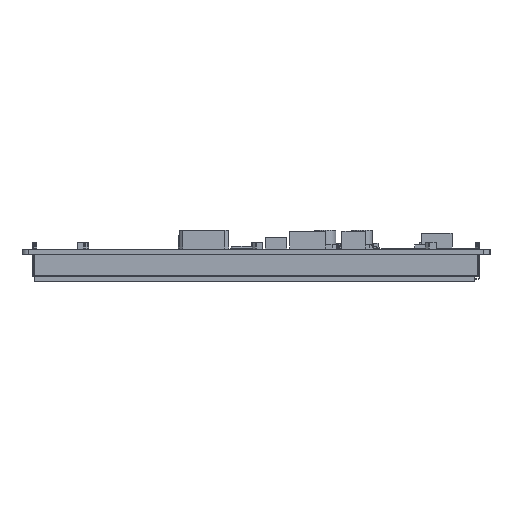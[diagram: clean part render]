
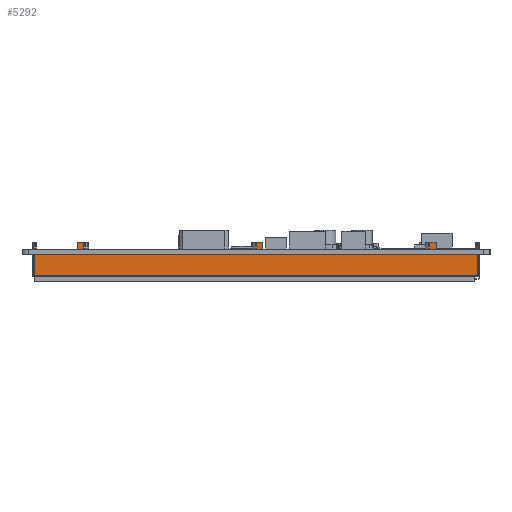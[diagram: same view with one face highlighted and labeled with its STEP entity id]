
A CAD part, left-side view. The second image highlights one B-rep face of the part: STEP entity #5292.
In plain terms, the highlighted planar face has unit normal (-1, 0, 0).
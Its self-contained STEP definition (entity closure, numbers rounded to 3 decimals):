
#5292=ADVANCED_FACE('',(#10006),#7492,.F.);
#7492=PLANE('',#58800);
#10006=FACE_OUTER_BOUND('',#12701,.T.);
#12701=EDGE_LOOP('',(#26313,#26314,#26315,#26316,#26317,#26318,#26319,#26320,
#26321,#26322,#26323,#26324,#26325,#26326,#26327,#26328,#26329,#26330,#26331,
#26332,#26333,#26334));
#26313=ORIENTED_EDGE('',*,*,#39514,.F.);
#26314=ORIENTED_EDGE('',*,*,#39515,.T.);
#26315=ORIENTED_EDGE('',*,*,#39516,.T.);
#26316=ORIENTED_EDGE('',*,*,#39511,.T.);
#26317=ORIENTED_EDGE('',*,*,#39517,.F.);
#26318=ORIENTED_EDGE('',*,*,#39518,.F.);
#26319=ORIENTED_EDGE('',*,*,#39519,.T.);
#26320=ORIENTED_EDGE('',*,*,#39520,.T.);
#26321=ORIENTED_EDGE('',*,*,#39521,.T.);
#26322=ORIENTED_EDGE('',*,*,#39507,.T.);
#26323=ORIENTED_EDGE('',*,*,#39522,.F.);
#26324=ORIENTED_EDGE('',*,*,#39523,.F.);
#26325=ORIENTED_EDGE('',*,*,#39524,.T.);
#26326=ORIENTED_EDGE('',*,*,#39525,.T.);
#26327=ORIENTED_EDGE('',*,*,#39526,.T.);
#26328=ORIENTED_EDGE('',*,*,#39503,.T.);
#26329=ORIENTED_EDGE('',*,*,#39527,.F.);
#26330=ORIENTED_EDGE('',*,*,#39528,.T.);
#26331=ORIENTED_EDGE('',*,*,#39529,.F.);
#26332=ORIENTED_EDGE('',*,*,#39530,.F.);
#26333=ORIENTED_EDGE('',*,*,#39531,.T.);
#26334=ORIENTED_EDGE('',*,*,#39501,.T.);
#32307=VERTEX_POINT('',#87095);
#32309=VERTEX_POINT('',#87099);
#32310=VERTEX_POINT('',#87103);
#32312=VERTEX_POINT('',#87106);
#32314=VERTEX_POINT('',#87112);
#32316=VERTEX_POINT('',#87115);
#32318=VERTEX_POINT('',#87121);
#32320=VERTEX_POINT('',#87124);
#32322=VERTEX_POINT('',#87130);
#32323=VERTEX_POINT('',#87132);
#32324=VERTEX_POINT('',#87135);
#32325=VERTEX_POINT('',#87137);
#32326=VERTEX_POINT('',#87139);
#32327=VERTEX_POINT('',#87141);
#32328=VERTEX_POINT('',#87144);
#32329=VERTEX_POINT('',#87146);
#32330=VERTEX_POINT('',#87148);
#32331=VERTEX_POINT('',#87150);
#32332=VERTEX_POINT('',#87153);
#32333=VERTEX_POINT('',#87155);
#32334=VERTEX_POINT('',#87157);
#32335=VERTEX_POINT('',#87159);
#39501=EDGE_CURVE('',#32307,#32309,#47691,.T.);
#39503=EDGE_CURVE('',#32312,#32310,#47693,.T.);
#39507=EDGE_CURVE('',#32316,#32314,#47697,.T.);
#39511=EDGE_CURVE('',#32320,#32318,#47701,.T.);
#39514=EDGE_CURVE('',#32322,#32309,#47704,.T.);
#39515=EDGE_CURVE('',#32322,#32323,#47705,.T.);
#39516=EDGE_CURVE('',#32323,#32320,#47706,.T.);
#39517=EDGE_CURVE('',#32324,#32318,#47707,.T.);
#39518=EDGE_CURVE('',#32325,#32324,#47708,.T.);
#39519=EDGE_CURVE('',#32325,#32326,#47709,.T.);
#39520=EDGE_CURVE('',#32326,#32327,#47710,.T.);
#39521=EDGE_CURVE('',#32327,#32316,#47711,.T.);
#39522=EDGE_CURVE('',#32328,#32314,#47712,.T.);
#39523=EDGE_CURVE('',#32329,#32328,#47713,.T.);
#39524=EDGE_CURVE('',#32329,#32330,#47714,.T.);
#39525=EDGE_CURVE('',#32330,#32331,#47715,.T.);
#39526=EDGE_CURVE('',#32331,#32312,#47716,.T.);
#39527=EDGE_CURVE('',#32332,#32310,#47717,.T.);
#39528=EDGE_CURVE('',#32332,#32333,#47718,.T.);
#39529=EDGE_CURVE('',#32334,#32333,#47719,.T.);
#39530=EDGE_CURVE('',#32335,#32334,#47720,.T.);
#39531=EDGE_CURVE('',#32335,#32307,#47721,.T.);
#47691=LINE('',#87100,#54298);
#47693=LINE('',#87105,#54300);
#47697=LINE('',#87114,#54304);
#47701=LINE('',#87123,#54308);
#47704=LINE('',#87129,#54311);
#47705=LINE('',#87131,#54312);
#47706=LINE('',#87133,#54313);
#47707=LINE('',#87134,#54314);
#47708=LINE('',#87136,#54315);
#47709=LINE('',#87138,#54316);
#47710=LINE('',#87140,#54317);
#47711=LINE('',#87142,#54318);
#47712=LINE('',#87143,#54319);
#47713=LINE('',#87145,#54320);
#47714=LINE('',#87147,#54321);
#47715=LINE('',#87149,#54322);
#47716=LINE('',#87151,#54323);
#47717=LINE('',#87152,#54324);
#47718=LINE('',#87154,#54325);
#47719=LINE('',#87156,#54326);
#47720=LINE('',#87158,#54327);
#47721=LINE('',#87160,#54328);
#54298=VECTOR('',#71379,1.);
#54300=VECTOR('',#71383,1.);
#54304=VECTOR('',#71389,1.);
#54308=VECTOR('',#71395,1.);
#54311=VECTOR('',#71400,1.);
#54312=VECTOR('',#71401,1.);
#54313=VECTOR('',#71402,1.);
#54314=VECTOR('',#71403,1.);
#54315=VECTOR('',#71404,1.);
#54316=VECTOR('',#71405,1.);
#54317=VECTOR('',#71406,1.);
#54318=VECTOR('',#71407,1.);
#54319=VECTOR('',#71408,1.);
#54320=VECTOR('',#71409,1.);
#54321=VECTOR('',#71410,1.);
#54322=VECTOR('',#71411,1.);
#54323=VECTOR('',#71412,1.);
#54324=VECTOR('',#71413,1.);
#54325=VECTOR('',#71414,1.);
#54326=VECTOR('',#71415,1.);
#54327=VECTOR('',#71416,1.);
#54328=VECTOR('',#71417,1.);
#58800=AXIS2_PLACEMENT_3D('',#87161,#71418,#71419);
#71379=DIRECTION('',(0.,1.,0.));
#71383=DIRECTION('',(0.,1.,0.));
#71389=DIRECTION('',(0.,1.,0.));
#71395=DIRECTION('',(0.,1.,0.));
#71400=DIRECTION('',(0.,0.,1.));
#71401=DIRECTION('',(0.,-1.,0.));
#71402=DIRECTION('',(0.,0.,1.));
#71403=DIRECTION('',(0.,0.,-1.));
#71404=DIRECTION('',(0.,-1.,0.));
#71405=DIRECTION('',(0.,0.,-1.));
#71406=DIRECTION('',(0.,-1.,0.));
#71407=DIRECTION('',(0.,0.,-1.));
#71408=DIRECTION('',(0.,0.,-1.));
#71409=DIRECTION('',(0.,-1.,0.));
#71410=DIRECTION('',(0.,0.,-1.));
#71411=DIRECTION('',(0.,-1.,0.));
#71412=DIRECTION('',(0.,0.,-1.));
#71413=DIRECTION('',(0.,0.,-1.));
#71414=DIRECTION('',(0.,-1.,0.));
#71415=DIRECTION('',(0.,0.,-1.));
#71416=DIRECTION('',(0.,-1.,0.));
#71417=DIRECTION('',(0.,0.,-1.));
#71418=DIRECTION('',(1.,0.,0.));
#71419=DIRECTION('',(0.,1.,0.));
#87095=CARTESIAN_POINT('',(-84.85,60.795,-1.6));
#87099=CARTESIAN_POINT('',(-84.85,74.48,-1.6));
#87100=CARTESIAN_POINT('',(-84.85,-66.52,-1.6));
#87103=CARTESIAN_POINT('',(-84.85,58.795,-1.6));
#87105=CARTESIAN_POINT('',(-84.85,-66.52,-1.6));
#87106=CARTESIAN_POINT('',(-84.85,3.795,-1.6));
#87112=CARTESIAN_POINT('',(-84.85,1.795,-1.6));
#87114=CARTESIAN_POINT('',(-84.85,-66.52,-1.6));
#87115=CARTESIAN_POINT('',(-84.85,-51.325,-1.6));
#87121=CARTESIAN_POINT('',(-84.85,-53.325,-1.6));
#87123=CARTESIAN_POINT('',(-84.85,-66.52,-1.6));
#87124=CARTESIAN_POINT('',(-84.85,-66.52,-1.6));
#87129=CARTESIAN_POINT('',(-84.85,74.48,-8.8));
#87130=CARTESIAN_POINT('',(-84.85,74.48,-8.4));
#87131=CARTESIAN_POINT('',(-84.85,-66.52,-8.4));
#87132=CARTESIAN_POINT('',(-84.85,-66.52,-8.4));
#87133=CARTESIAN_POINT('',(-84.85,-66.52,-8.8));
#87134=CARTESIAN_POINT('',(-84.85,-53.325,2.));
#87135=CARTESIAN_POINT('',(-84.85,-53.325,2.));
#87136=CARTESIAN_POINT('',(-84.85,-51.243,2.));
#87137=CARTESIAN_POINT('',(-84.85,-51.243,2.));
#87138=CARTESIAN_POINT('',(-84.85,-51.243,2.));
#87139=CARTESIAN_POINT('',(-84.85,-51.243,0.));
#87140=CARTESIAN_POINT('',(-84.85,-51.243,0.));
#87141=CARTESIAN_POINT('',(-84.85,-51.325,0.));
#87142=CARTESIAN_POINT('',(-84.85,-51.325,0.));
#87143=CARTESIAN_POINT('',(-84.85,1.795,2.));
#87144=CARTESIAN_POINT('',(-84.85,1.795,2.));
#87145=CARTESIAN_POINT('',(-84.85,3.877,2.));
#87146=CARTESIAN_POINT('',(-84.85,3.877,2.));
#87147=CARTESIAN_POINT('',(-84.85,3.877,2.));
#87148=CARTESIAN_POINT('',(-84.85,3.877,0.));
#87149=CARTESIAN_POINT('',(-84.85,3.877,0.));
#87150=CARTESIAN_POINT('',(-84.85,3.795,0.));
#87151=CARTESIAN_POINT('',(-84.85,3.795,0.));
#87152=CARTESIAN_POINT('',(-84.85,58.795,0.));
#87153=CARTESIAN_POINT('',(-84.85,58.795,0.));
#87154=CARTESIAN_POINT('',(-84.85,60.795,0.));
#87155=CARTESIAN_POINT('',(-84.85,58.713,0.));
#87156=CARTESIAN_POINT('',(-84.85,58.713,2.));
#87157=CARTESIAN_POINT('',(-84.85,58.713,2.));
#87158=CARTESIAN_POINT('',(-84.85,60.795,2.));
#87159=CARTESIAN_POINT('',(-84.85,60.795,2.));
#87160=CARTESIAN_POINT('',(-84.85,60.795,2.));
#87161=CARTESIAN_POINT('',(-84.85,-66.52,-8.8));
